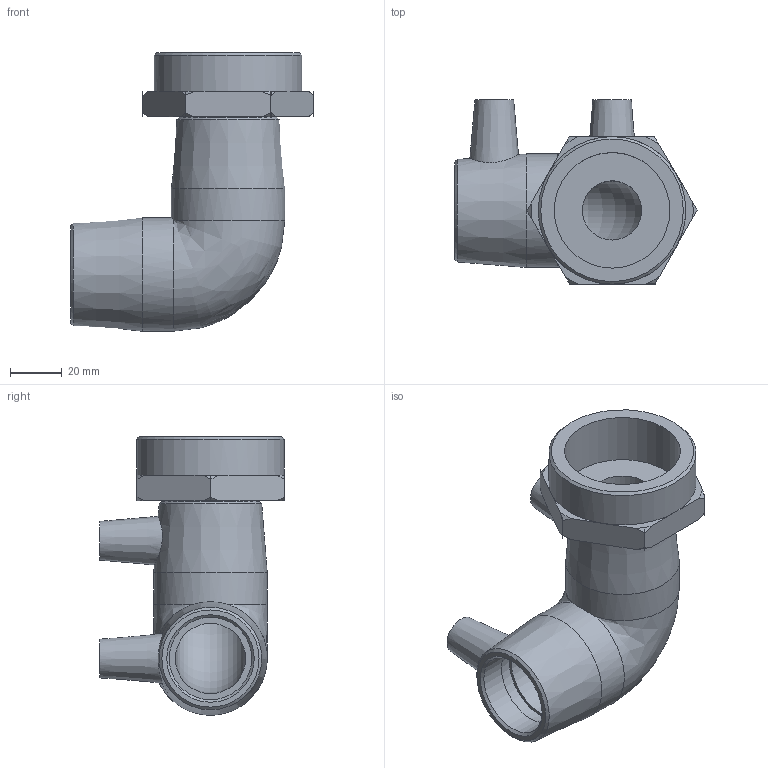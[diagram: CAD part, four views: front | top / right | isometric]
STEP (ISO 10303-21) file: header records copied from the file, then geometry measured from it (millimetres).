
FILE_DESCRIPTION(/* description */ ('PLASSON 90° ELBOW FEMALE TRANSITION 32-1.1/2'''''),/* implementation_level */ '2;1');
FILE_NAME(/* name */ 'C:\Dropbox\KIMPROJECTS-Inventor\99-16-3568-Processing\ElectroFusion Fittings\02.02.20\493504\493504032015.ipt.stp',/* time_stamp */ '2020-02-02T12:34:24+02:00',/* author */ ('KIM'),/* organization */ (''),/* preprocessor_version */ 'ST-DEVELOPER v15.6',/* originating_system */ 'Autodesk Inventor 2015',/* authorisation */ '');
FILE_SCHEMA (('AUTOMOTIVE_DESIGN { 1 0 10303 214 3 1 1 }'));
Length unit declared in the file: millimetre
Products named in the file (1): 493504032015
Bounding box: 94.02 x 71.68 x 108 mm (x, y, z)
Volume: 137482.2 mm3; surface area: 42980.9 mm2
Topology: 1 solids, 2 shells, 76 faces, 206 edges, 141 vertices
Faces by surface type: plane 27, cylinder 25, cone 22, bspline 1, torus 1
Full cylindrical faces by diameter (mm): 4 x2, 10 x2, 23 x1, 32 x4, 44 x2, 44.845 x1, 57.2 x1
Entity records: 2375 total; most frequent: CARTESIAN_POINT 512, DIRECTION 384, ORIENTED_EDGE 332, AXIS2_PLACEMENT_3D 168, EDGE_CURVE 166, VERTEX_POINT 129, EDGE_LOOP 115, CIRCLE 91
